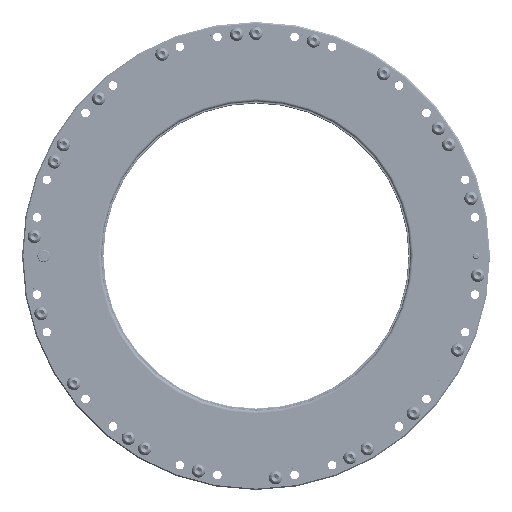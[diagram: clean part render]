
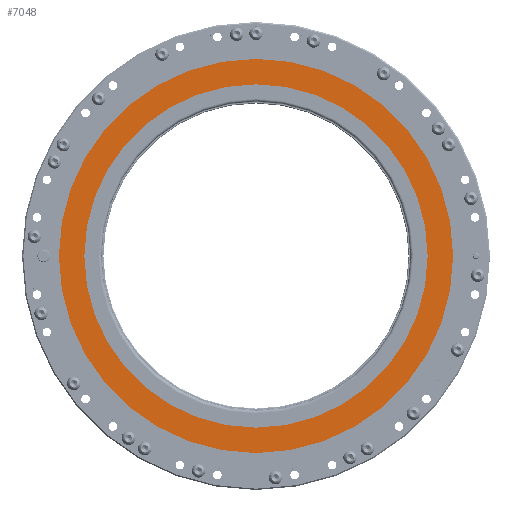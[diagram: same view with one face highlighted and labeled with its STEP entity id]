
A CAD part, top view. The second image highlights one B-rep face of the part: STEP entity #7048.
In plain terms, the highlighted planar face has unit normal (0, 0, 1) as drawn and (0, 0, -1) by its records, which use the part's own axes.
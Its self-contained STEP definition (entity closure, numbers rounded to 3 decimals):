
#497=PLANE('',#7595);
#731=CIRCLE('',#7596,135.);
#732=CIRCLE('',#7597,155.);
#1394=ORIENTED_EDGE('',*,*,#2335,.T.);
#1395=ORIENTED_EDGE('',*,*,#2336,.F.);
#2335=EDGE_CURVE('',#2873,#2873,#731,.T.);
#2336=EDGE_CURVE('',#2874,#2874,#732,.T.);
#2873=VERTEX_POINT('',#11067);
#2874=VERTEX_POINT('',#11069);
#3642=EDGE_LOOP('',(#1394));
#3643=EDGE_LOOP('',(#1395));
#4349=FACE_BOUND('',#3642,.T.);
#4350=FACE_BOUND('',#3643,.T.);
#7048=ADVANCED_FACE('',(#4349,#4350),#497,.F.);
#7595=AXIS2_PLACEMENT_3D('',#11065,#8729,#8730);
#7596=AXIS2_PLACEMENT_3D('',#11066,#8731,#8732);
#7597=AXIS2_PLACEMENT_3D('',#11068,#8733,#8734);
#8729=DIRECTION('',(0.,0.,1.));
#8730=DIRECTION('',(1.,0.,0.));
#8731=DIRECTION('',(0.,0.,1.));
#8732=DIRECTION('',(1.,0.,0.));
#8733=DIRECTION('',(0.,0.,1.));
#8734=DIRECTION('',(1.,0.,0.));
#11065=CARTESIAN_POINT('',(135.,0.,-9.5));
#11066=CARTESIAN_POINT('',(0.,0.,-9.5));
#11067=CARTESIAN_POINT('',(135.,0.,-9.5));
#11068=CARTESIAN_POINT('',(0.,0.,-9.5));
#11069=CARTESIAN_POINT('',(155.,0.,-9.5));
